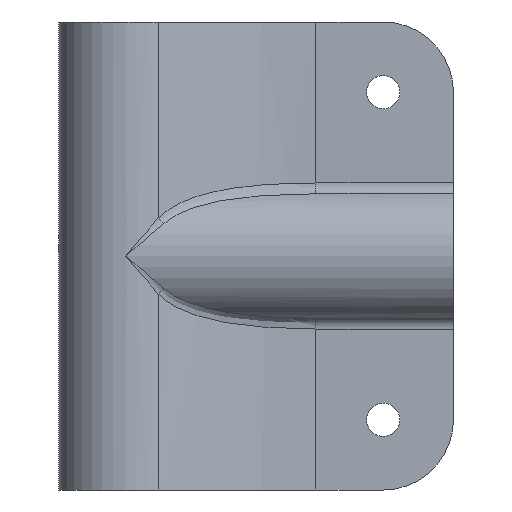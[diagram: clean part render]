
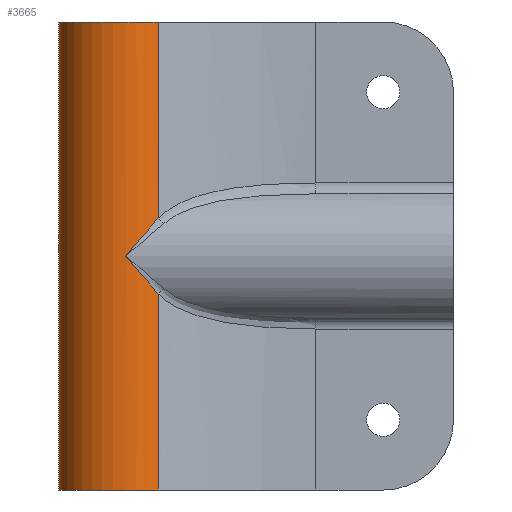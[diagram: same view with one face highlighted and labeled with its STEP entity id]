
A CAD part, front view. The second image highlights one B-rep face of the part: STEP entity #3665.
In plain terms, the highlighted cylindrical face has radius 9.144 mm (diameter 18.288 mm), a partial arc.
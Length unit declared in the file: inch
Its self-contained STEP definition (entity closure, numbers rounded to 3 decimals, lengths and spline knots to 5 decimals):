
#1049 = ORIENTED_EDGE ( 'NONE', *, *, #3518, .T. ) ;
#1104 = EDGE_LOOP ( 'NONE', ( #5148, #5098, #5039, #5813, #4674, #4776, #1049 ) ) ;
#1109 = VERTEX_POINT ( 'NONE', #9785 ) ;
#1231 = VERTEX_POINT ( 'NONE', #9854 ) ;
#1264 = VERTEX_POINT ( 'NONE', #9771 ) ;
#1266 = VERTEX_POINT ( 'NONE', #10036 ) ;
#1340 = VERTEX_POINT ( 'NONE', #9907 ) ;
#1343 = VERTEX_POINT ( 'NONE', #10575 ) ;
#1356 = VERTEX_POINT ( 'NONE', #10620 ) ;
#3493 = EDGE_CURVE ( 'NONE', #1109, #1266, #5491, .T. ) ;
#3495 = EDGE_CURVE ( 'NONE', #1264, #1109, #8189, .T. ) ;
#3504 = EDGE_CURVE ( 'NONE', #1340, #1356, #8311, .T. ) ;
#3512 = EDGE_CURVE ( 'NONE', #1356, #1264, #8218, .T. ) ;
#3515 = EDGE_CURVE ( 'NONE', #1340, #1231, #8312, .T. ) ;
#3518 = EDGE_CURVE ( 'NONE', #1343, #1231, #8269, .T. ) ;
#3521 = EDGE_CURVE ( 'NONE', #1266, #1343, #5479, .T. ) ;
#3665 = ADVANCED_FACE ( 'NONE', ( #8207 ), #8211, .T. ) ;
#4205 = AXIS2_PLACEMENT_3D ( 'NONE', #10582, #10506, #10602 ) ;
#4209 = AXIS2_PLACEMENT_3D ( 'NONE', #10558, #10531, #10369 ) ;
#4252 = AXIS2_PLACEMENT_3D ( 'NONE', #9296, #10031, #9407 ) ;
#4674 = ORIENTED_EDGE ( 'NONE', *, *, #3493, .T. ) ;
#4776 = ORIENTED_EDGE ( 'NONE', *, *, #3521, .T. ) ;
#5039 = ORIENTED_EDGE ( 'NONE', *, *, #3512, .T. ) ;
#5098 = ORIENTED_EDGE ( 'NONE', *, *, #3504, .T. ) ;
#5148 = ORIENTED_EDGE ( 'NONE', *, *, #3515, .F. ) ;
#5479 =( BOUNDED_CURVE ( )  B_SPLINE_CURVE ( 3, ( #9893, #9839, #9664, #10196 ),
 .UNSPECIFIED., .F., .F. ) 
 B_SPLINE_CURVE_WITH_KNOTS ( ( 4, 4 ),
 ( 1.5708, 2.07247 ),
 .UNSPECIFIED. ) 
 CURVE ( )  GEOMETRIC_REPRESENTATION_ITEM ( )  RATIONAL_B_SPLINE_CURVE ( ( 1., 0.979, 0.979, 1. ) ) 
 REPRESENTATION_ITEM ( '' )  );
#5491 =( BOUNDED_CURVE ( )  B_SPLINE_CURVE ( 3, ( #10511, #10661, #9524, #9388 ),
 .UNSPECIFIED., .F., .T. ) 
 B_SPLINE_CURVE_WITH_KNOTS ( ( 4, 4 ),
 ( 4.21071, 4.71239 ),
 .UNSPECIFIED. ) 
 CURVE ( )  GEOMETRIC_REPRESENTATION_ITEM ( )  RATIONAL_B_SPLINE_CURVE ( ( 1., 0.979, 0.979, 1. ) ) 
 REPRESENTATION_ITEM ( '' )  );
#5813 = ORIENTED_EDGE ( 'NONE', *, *, #3495, .T. ) ;
#8189 = LINE ( 'NONE', #9751, #8295 ) ;
#8207 = FACE_OUTER_BOUND ( 'NONE', #1104, .T. ) ;
#8211 = CYLINDRICAL_SURFACE ( 'NONE', #4252, 0.36 ) ;
#8218 = CIRCLE ( 'NONE', #4205, 0.36 ) ;
#8269 = LINE ( 'NONE', #9830, #8276 ) ;
#8276 = VECTOR ( 'NONE', #9444, 39.37008 ) ;
#8277 = VECTOR ( 'NONE', #9272, 39.37008 ) ;
#8295 = VECTOR ( 'NONE', #9953, 39.37008 ) ;
#8311 = LINE ( 'NONE', #9926, #8277 ) ;
#8312 = CIRCLE ( 'NONE', #4209, 0.36 ) ;
#9272 = DIRECTION ( 'NONE',  ( 0., 0., -1. ) ) ;
#9296 = CARTESIAN_POINT ( 'NONE',  ( -0.875, 0., 1.25 ) ) ;
#9388 = CARTESIAN_POINT ( 'NONE',  ( -0.875, -0.36, 0. ) ) ;
#9407 = DIRECTION ( 'NONE',  ( -1., 0., 0. ) ) ;
#9444 = DIRECTION ( 'NONE',  ( 0., 0., 1. ) ) ;
#9524 = CARTESIAN_POINT ( 'NONE',  ( -0.81416, -0.36, -0.0714 ) ) ;
#9664 = CARTESIAN_POINT ( 'NONE',  ( -0.75522, -0.3449, 0.14057 ) ) ;
#9751 = CARTESIAN_POINT ( 'NONE',  ( -0.70188, -0.31564, 1.25 ) ) ;
#9771 = CARTESIAN_POINT ( 'NONE',  ( -0.70188, -0.31564, -1.25 ) ) ;
#9785 = CARTESIAN_POINT ( 'NONE',  ( -0.70188, -0.31564, -0.20318 ) ) ;
#9830 = CARTESIAN_POINT ( 'NONE',  ( -0.70188, -0.31564, 1.25 ) ) ;
#9839 = CARTESIAN_POINT ( 'NONE',  ( -0.81416, -0.36, 0.0714 ) ) ;
#9854 = CARTESIAN_POINT ( 'NONE',  ( -0.70188, -0.31564, 1.25 ) ) ;
#9893 = CARTESIAN_POINT ( 'NONE',  ( -0.875, -0.36, 0. ) ) ;
#9907 = CARTESIAN_POINT ( 'NONE',  ( -1.235, 0., 1.25 ) ) ;
#9926 = CARTESIAN_POINT ( 'NONE',  ( -1.235, 0., 1.25 ) ) ;
#9953 = DIRECTION ( 'NONE',  ( 0., 0., 1. ) ) ;
#10031 = DIRECTION ( 'NONE',  ( 0., 0., -1. ) ) ;
#10036 = CARTESIAN_POINT ( 'NONE',  ( -0.875, -0.36, 0. ) ) ;
#10196 = CARTESIAN_POINT ( 'NONE',  ( -0.70188, -0.31564, 0.20318 ) ) ;
#10369 = DIRECTION ( 'NONE',  ( 1., 0., 0. ) ) ;
#10506 = DIRECTION ( 'NONE',  ( 0., 0., 1. ) ) ;
#10511 = CARTESIAN_POINT ( 'NONE',  ( -0.70188, -0.31564, -0.20318 ) ) ;
#10531 = DIRECTION ( 'NONE',  ( 0., 0., 1. ) ) ;
#10558 = CARTESIAN_POINT ( 'NONE',  ( -0.875, 0., 1.25 ) ) ;
#10575 = CARTESIAN_POINT ( 'NONE',  ( -0.70188, -0.31564, 0.20318 ) ) ;
#10582 = CARTESIAN_POINT ( 'NONE',  ( -0.875, 0., -1.25 ) ) ;
#10602 = DIRECTION ( 'NONE',  ( 1., 0., 0. ) ) ;
#10620 = CARTESIAN_POINT ( 'NONE',  ( -1.235, 0., -1.25 ) ) ;
#10661 = CARTESIAN_POINT ( 'NONE',  ( -0.75522, -0.3449, -0.14057 ) ) ;
